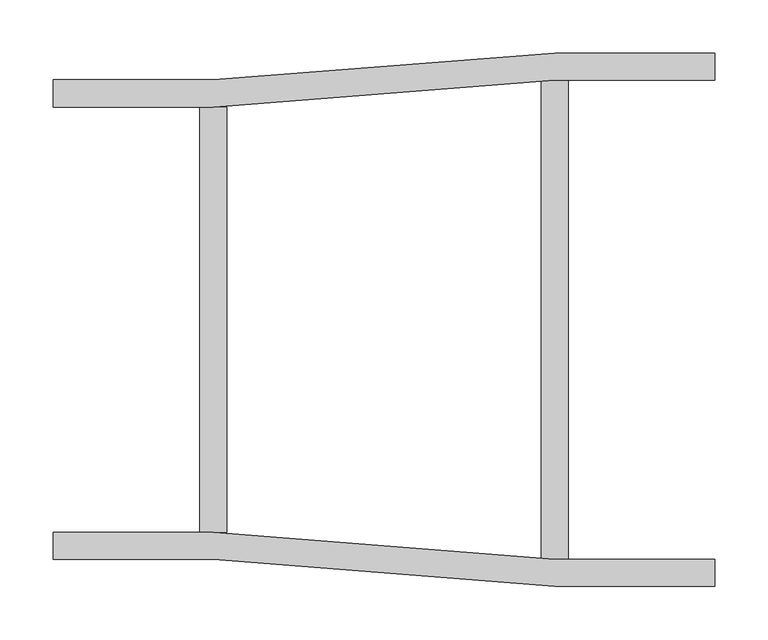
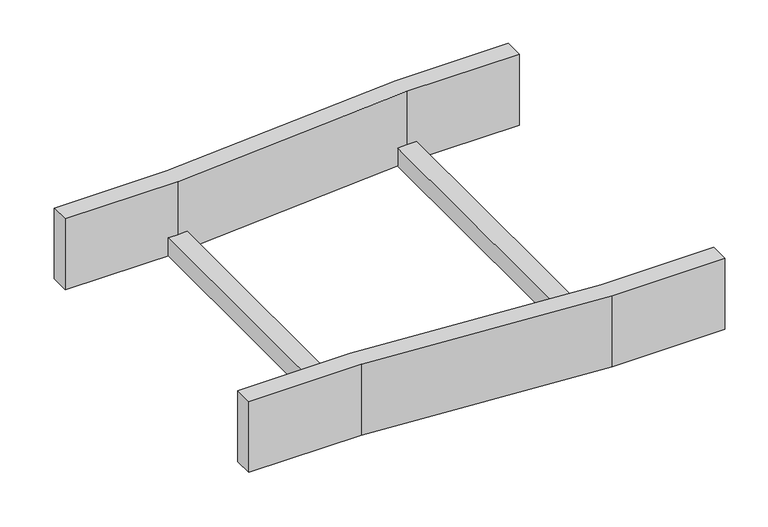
"""IFC4 building model written with IfcOpenShell, lengths in millimetres: cable carrier fitting geometry, BAKS_LD_RED_Straight reducer_RDSV : RDSVP_H100."""

from ifc_helpers import new_model, si_unit, frame, origin, place, context, project, spatial, polyline, outline, extrude, source, transform, mapped, element, save


def cable_carrier_fitting_b9b8e363(model_context):
    return source(origin(), model_context, "Body", "SweptSolid", [
        extrude(outline(polyline([(0.0, -225.0), (0.0, -199.6), (150.0, -199.6), (470.0, -224.6), (620.0, -224.6), (620.0, -250.0), (470.0, -250.0), (150.0, -225.0), (0.0, -225.0)])), frame((0.0, 0.0, -50.0), z_axis=(0.0, 0.0, 1.0), x_axis=(1.0, 0.0, 0.0)), (0.0, 0.0, 1.0), 100.0),
        extrude(outline(polyline([(0.0, 199.6), (0.0, 225.0), (150.0, 225.0), (470.0, 250.0), (620.0, 250.0), (620.0, 224.6), (470.0, 224.6), (150.0, 199.6), (0.0, 199.6)])), frame((0.0, 0.0, -50.0), z_axis=(0.0, 0.0, 1.0), x_axis=(1.0, 0.0, 0.0)), (0.0, 0.0, 1.0), 100.0),
        extrude(outline(polyline([(457.3, 224.6), (482.7, 224.6), (482.7, -224.6), (457.3, -224.6), (457.3, 224.6)])), frame((0.0, 0.0, -50.0), z_axis=(0.0, 0.0, 1.0), x_axis=(1.0, 0.0, 0.0)), (0.0, 0.0, 1.0), 25.4),
        extrude(outline(polyline([(137.3, 199.6), (162.7, 199.6), (162.7, -199.6), (137.3, -199.6), (137.3, 199.6)])), frame((0.0, 0.0, -50.0), z_axis=(0.0, 0.0, 1.0), x_axis=(1.0, 0.0, 0.0)), (0.0, 0.0, 1.0), 25.4),
    ])


if __name__ == "__main__":
    model = new_model("IFC4")
    model_context = context("Model", 3, world=origin())
    ifc_project = project(units=[si_unit("LENGTHUNIT", "METRE", prefix="MILLI")], contexts=[model_context])
    site = spatial("IfcSite", under=ifc_project)
    building = spatial("IfcBuilding", under=site)
    placement = place(None, origin())
    cable_carrier_fitting_shape = cable_carrier_fitting_b9b8e363(model_context)
    element("IfcCableCarrierFitting", 1, ObjectType="BAKS_LD_RED_Straight reducer_RDSV : RDSVP_H100", at=placement, inside=building, context=model_context, shape_type="MappedRepresentation", body=[
        mapped(cable_carrier_fitting_shape, transform((0.0, 0.0, 0.0), x_axis=(1.0, 0.0, 0.0), y_axis=(0.0, 1.0, 0.0), z_axis=(0.0, 0.0, 1.0))),
    ])
    save(model, "model.ifc")
